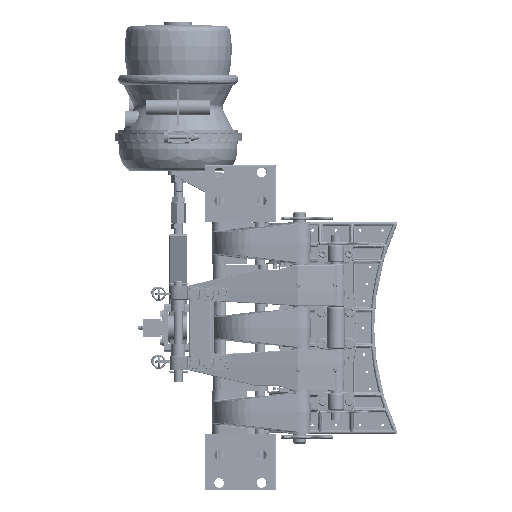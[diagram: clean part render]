
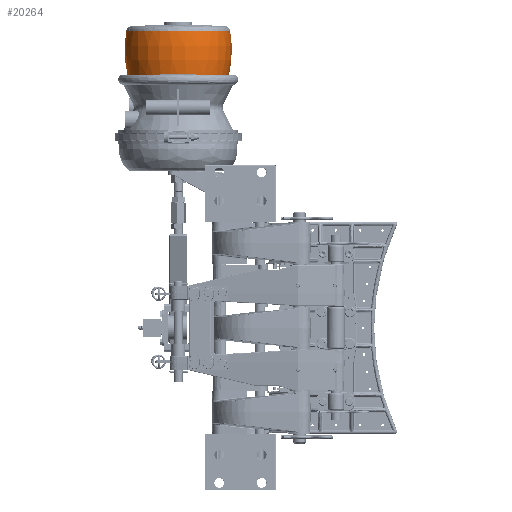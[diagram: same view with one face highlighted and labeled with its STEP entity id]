
A CAD part, top view. The second image highlights one B-rep face of the part: STEP entity #20264.
In plain terms, the highlighted toroidal (fillet/blend) face has major radius 97.72 mm and minor radius 194.24 mm.
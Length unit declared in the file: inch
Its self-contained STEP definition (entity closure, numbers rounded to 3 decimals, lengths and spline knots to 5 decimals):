
#5414 = DIRECTION ( 'NONE',  ( 0., 1., 0. ) ) ;
#5684 = CARTESIAN_POINT ( 'NONE',  ( -10.94884, 19.6875, 0. ) ) ;
#13792 = AXIS2_PLACEMENT_3D ( 'NONE', #5684, #187194, #31787 ) ;
#20264 = ADVANCED_FACE ( 'NONE', ( #120272 ), #156600, .T. ) ;
#29229 = CARTESIAN_POINT ( 'NONE',  ( -10.78611, 21.01157, 0. ) ) ;
#31787 = DIRECTION ( 'NONE',  ( 1., 0., 0. ) ) ;
#57373 = CARTESIAN_POINT ( 'NONE',  ( -3.50157, 17.95, 0. ) ) ;
#60151 = DIRECTION ( 'NONE',  ( 0., 1., 0. ) ) ;
#71441 = ORIENTED_EDGE ( 'NONE', *, *, #203655, .F. ) ;
#84926 = CIRCLE ( 'NONE', #141140, 3.60002 ) ;
#92108 = CIRCLE ( 'NONE', #13792, 7.64727 ) ;
#96657 = CARTESIAN_POINT ( 'NONE',  ( -3.25434, 19.6875, 0. ) ) ;
#109263 = EDGE_CURVE ( 'NONE', #273408, #235953, #163860, .T. ) ;
#112439 = CIRCLE ( 'NONE', #123122, 7.64727 ) ;
#116150 = CARTESIAN_POINT ( 'NONE',  ( -10.70161, 17.95, 0. ) ) ;
#120272 = FACE_OUTER_BOUND ( 'NONE', #136334, .T. ) ;
#122727 = DIRECTION ( 'NONE',  ( -1., 0., 0. ) ) ;
#123122 = AXIS2_PLACEMENT_3D ( 'NONE', #96657, #277865, #122727 ) ;
#136334 = EDGE_LOOP ( 'NONE', ( #71441, #233293, #267811, #217707 ) ) ;
#136825 = EDGE_CURVE ( 'NONE', #284099, #273408, #112439, .T. ) ;
#137686 = CARTESIAN_POINT ( 'NONE',  ( -7.10159, 17.95, 0. ) ) ;
#141140 = AXIS2_PLACEMENT_3D ( 'NONE', #137686, #318890, #163794 ) ;
#156600 = TOROIDAL_SURFACE ( 'NONE', #216946, -3.84725, 7.64727 ) ;
#159643 = DIRECTION ( 'NONE',  ( -1., 0., 0. ) ) ;
#163794 = DIRECTION ( 'NONE',  ( -1., 0., 0. ) ) ;
#163860 = CIRCLE ( 'NONE', #297219, 3.68452 ) ;
#171900 = CARTESIAN_POINT ( 'NONE',  ( -7.10159, 19.6875, 0. ) ) ;
#187038 = CARTESIAN_POINT ( 'NONE',  ( -3.41707, 21.01157, 0. ) ) ;
#187194 = DIRECTION ( 'NONE',  ( 0., 0., 1. ) ) ;
#196863 = VERTEX_POINT ( 'NONE', #57373 ) ;
#203655 = EDGE_CURVE ( 'NONE', #196863, #284099, #84926, .T. ) ;
#215351 = CARTESIAN_POINT ( 'NONE',  ( -7.10159, 21.01157, 0. ) ) ;
#216946 = AXIS2_PLACEMENT_3D ( 'NONE', #171900, #5414, #159643 ) ;
#217707 = ORIENTED_EDGE ( 'NONE', *, *, #136825, .F. ) ;
#233293 = ORIENTED_EDGE ( 'NONE', *, *, #267226, .T. ) ;
#235953 = VERTEX_POINT ( 'NONE', #187038 ) ;
#241421 = DIRECTION ( 'NONE',  ( -1., 0., 0. ) ) ;
#267226 = EDGE_CURVE ( 'NONE', #196863, #235953, #92108, .T. ) ;
#267811 = ORIENTED_EDGE ( 'NONE', *, *, #109263, .F. ) ;
#273408 = VERTEX_POINT ( 'NONE', #29229 ) ;
#277865 = DIRECTION ( 'NONE',  ( 0., 0., -1. ) ) ;
#284099 = VERTEX_POINT ( 'NONE', #116150 ) ;
#297219 = AXIS2_PLACEMENT_3D ( 'NONE', #215351, #60151, #241421 ) ;
#318890 = DIRECTION ( 'NONE',  ( 0., -1., 0. ) ) ;
